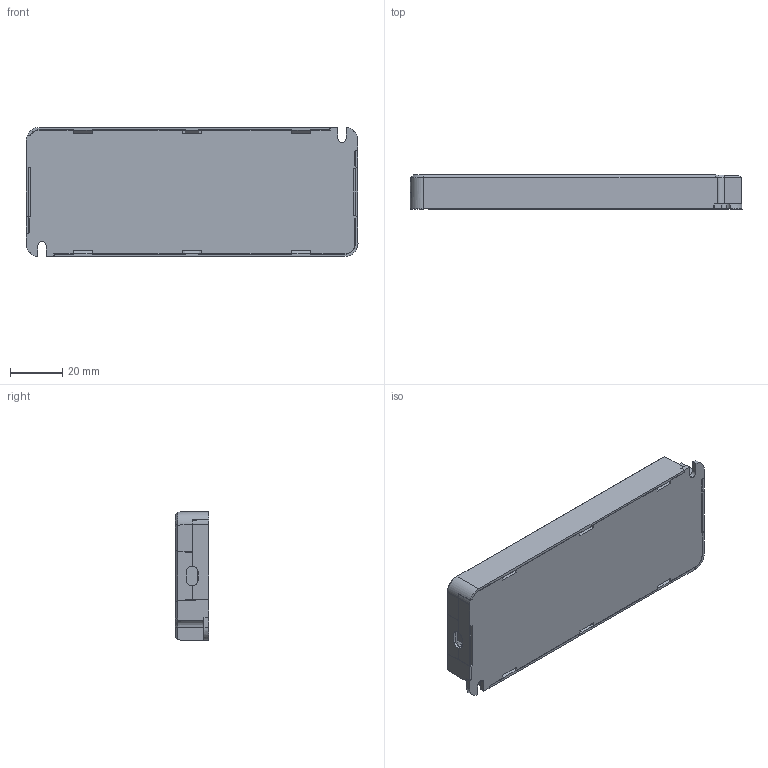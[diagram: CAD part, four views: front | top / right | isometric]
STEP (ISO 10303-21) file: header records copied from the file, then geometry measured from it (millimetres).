
FILE_DESCRIPTION(('FreeCAD Model'),'2;1');
FILE_NAME('X:/Application Engineering/4 Documentation/3 Users/1 MaS/3D Projekt/RACV20-LP_3D_20190724.step','2019-07-24T11:38:35',('Author'),('' ),'Open CASCADE STEP processor 7.3','FreeCAD','Unknown');
FILE_SCHEMA(('AUTOMOTIVE_DESIGN { 1 0 10303 214 1 1 1 1 }'));
Length unit declared in the file: millimetre
Products named in the file (8): RACV20-LP_M3_screw4; RACV20-LP_wire_cover_DC_side; RACV20-LP_case; RACV20-LP_wire_cover_AC_side; RACV20-LP_M3_screw3; RACV20-LP_M3_screw; RACV20-LP_M3_screw2; RACV20-LP_bottom_plate
Bounding box: 127.58 x 13 x 49.58 mm (x, y, z)
Volume: 23976.6 mm3; surface area: 43462.5 mm2
Topology: 8 solids, 8 shells, 1128 faces, 3051 edges, 1928 vertices
Faces by surface type: plane 626, cylinder 263, bspline 163, cone 68, revolution 8
Entity records: 67652 total; most frequent: CARTESIAN_POINT 38224, ORIENTED_EDGE 6038, DIRECTION 4684, EDGE_CURVE 3019, VERTEX_POINT 1928, LINE 1884, VECTOR 1884, AXIS2_PLACEMENT_3D 1396
